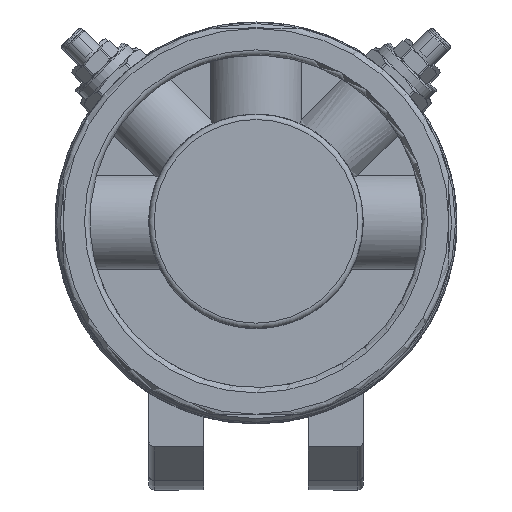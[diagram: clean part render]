
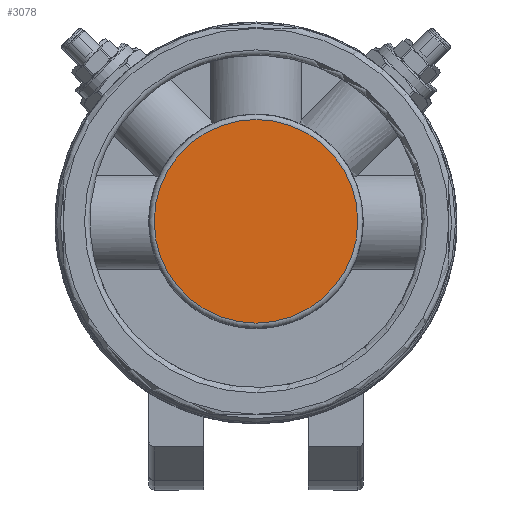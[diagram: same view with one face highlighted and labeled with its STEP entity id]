
A CAD part, top view. The second image highlights one B-rep face of the part: STEP entity #3078.
In plain terms, the highlighted planar face has unit normal (0, 0, 1).
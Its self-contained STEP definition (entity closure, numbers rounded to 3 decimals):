
#2767=CARTESIAN_POINT('',(19.,0.,195.5));
#2768=VERTEX_POINT('',#2767);
#2769=CARTESIAN_POINT('',(0.,0.,195.5));
#2770=DIRECTION('',(0.0,0.0,-1.0));
#2771=DIRECTION('',(-1.0,0.0,0.0));
#2772=AXIS2_PLACEMENT_3D('',#2769,#2770,#2771);
#2773=CIRCLE('',#2772,19.0);
#2774=EDGE_CURVE('',#2768,#2768,#2773,.T.);
#3070=CARTESIAN_POINT('',(0.,0.,195.5));
#3071=DIRECTION('',(0.0,0.0,-1.0));
#3072=DIRECTION('',(-1.0,0.0,0.0));
#3073=AXIS2_PLACEMENT_3D('',#3070,#3071,#3072);
#3074=PLANE('',#3073);
#3075=ORIENTED_EDGE('',*,*,#2774,.F.);
#3076=EDGE_LOOP('',(#3075));
#3077=FACE_OUTER_BOUND('',#3076,.T.);
#3078=ADVANCED_FACE('',(#3077),#3074,.F.);
